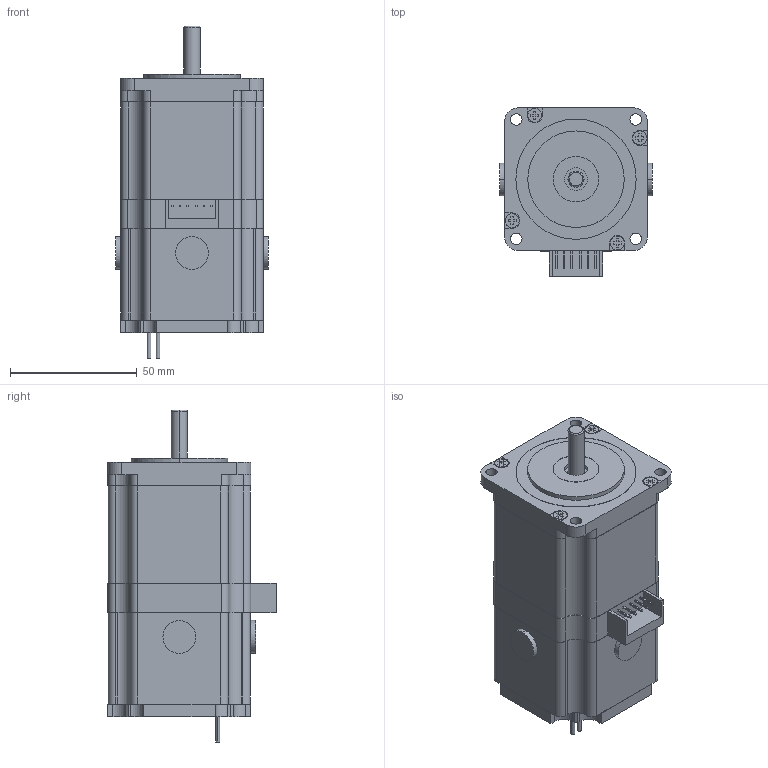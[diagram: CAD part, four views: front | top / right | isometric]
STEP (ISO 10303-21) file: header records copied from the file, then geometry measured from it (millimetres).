
FILE_DESCRIPTION (( 'STEP AP203' ), '1' );
FILE_NAME ('UB57D24-D30-655A.STEP', '2020-06-30T07:16:46', ( '' ), ( '' ), 'SwSTEP 2.0', 'SolidWorks 2018', '' );
FILE_SCHEMA (( 'CONFIG_CONTROL_DESIGN' ));
Length unit declared in the file: millimetre
Products named in the file (1): UB57D24-D30-655A
Bounding box: 60.2 x 66.4 x 131.1 mm (x, y, z)
Volume: 292169.4 mm3; surface area: 30029.5 mm2
Topology: 1 solids, 3 shells, 298 faces, 779 edges, 516 vertices
Faces by surface type: plane 187, cylinder 109, bspline 2
Entity records: 9274 total; most frequent: CARTESIAN_POINT 1630, DIRECTION 1591, ORIENTED_EDGE 1558, EDGE_CURVE 779, LINE 557, VECTOR 557, AXIS2_PLACEMENT_3D 517, VERTEX_POINT 516
